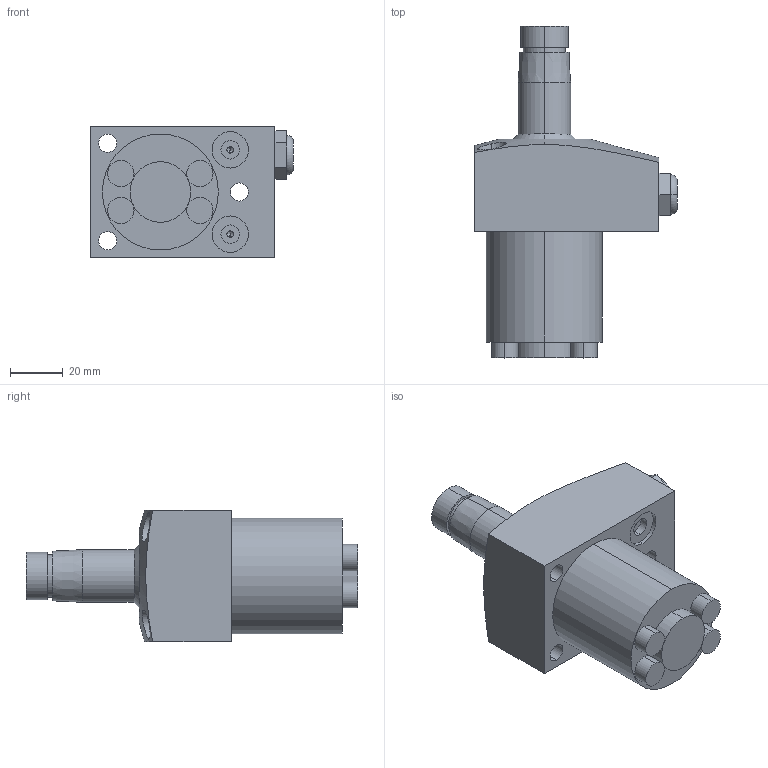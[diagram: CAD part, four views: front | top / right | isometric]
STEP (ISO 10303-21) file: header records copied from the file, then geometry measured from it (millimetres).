
FILE_DESCRIPTION (( 'STEP AP214' ), '1' );
FILE_NAME ('HPS-FA-25.STEP', '2021-10-18T01:17:39', ( '' ), ( '' ), 'SwSTEP 2.0', 'SolidWorks 2016', '' );
FILE_SCHEMA (( 'AUTOMOTIVE_DESIGN' ));
Length unit declared in the file: millimetre
Products named in the file (1): HPS-FA-25
Bounding box: 77 x 126 x 50 mm (x, y, z)
Volume: 187973 mm3; surface area: 28128.4 mm2
Topology: 1 solids, 2 shells, 93 faces, 204 edges, 128 vertices
Faces by surface type: cylinder 46, plane 31, cone 14, torus 2
Entity records: 2970 total; most frequent: CARTESIAN_POINT 734, DIRECTION 470, ORIENTED_EDGE 392, EDGE_CURVE 196, AXIS2_PLACEMENT_3D 192, VERTEX_POINT 128, EDGE_LOOP 120, CIRCLE 98
